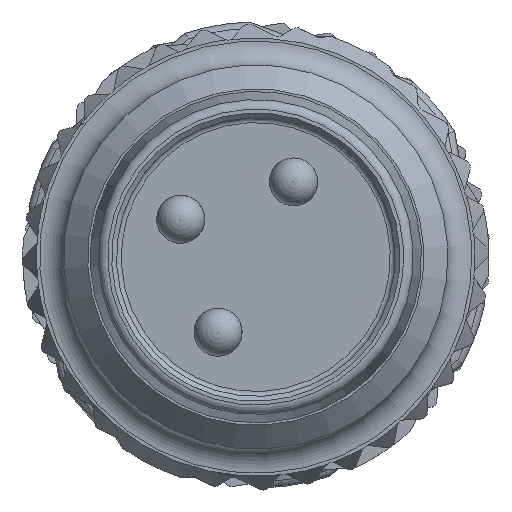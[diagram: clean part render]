
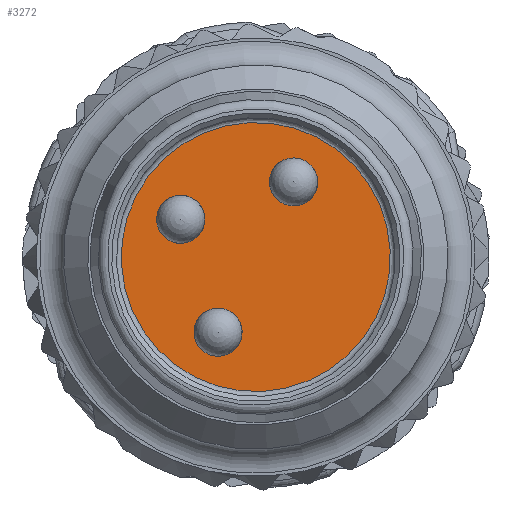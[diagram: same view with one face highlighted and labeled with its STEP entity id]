
A CAD part, left-side view. The second image highlights one B-rep face of the part: STEP entity #3272.
In plain terms, the highlighted planar face has unit normal (-1, 0, 0).
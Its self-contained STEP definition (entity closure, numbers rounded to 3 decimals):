
#266=PLANE('',#12743);
#3272=ADVANCED_FACE('',(#3985,#3986,#3987,#3988),#266,.F.);
#3985=FACE_BOUND('',#4556,.T.);
#3986=FACE_BOUND('',#4557,.T.);
#3987=FACE_BOUND('',#4558,.T.);
#3988=FACE_BOUND('',#4559,.T.);
#4556=EDGE_LOOP('',(#6990));
#4557=EDGE_LOOP('',(#6991));
#4558=EDGE_LOOP('',(#6992));
#4559=EDGE_LOOP('',(#6993));
#6990=ORIENTED_EDGE('',*,*,#10561,.T.);
#6991=ORIENTED_EDGE('',*,*,#10560,.F.);
#6992=ORIENTED_EDGE('',*,*,#10559,.F.);
#6993=ORIENTED_EDGE('',*,*,#10558,.F.);
#9031=VERTEX_POINT('',#20519);
#9032=VERTEX_POINT('',#20523);
#9033=VERTEX_POINT('',#20526);
#9034=VERTEX_POINT('',#20529);
#10558=EDGE_CURVE('',#9031,#9031,#11658,.T.);
#10559=EDGE_CURVE('',#9032,#9032,#11659,.T.);
#10560=EDGE_CURVE('',#9033,#9033,#11660,.T.);
#10561=EDGE_CURVE('',#9034,#9034,#11661,.T.);
#11658=CIRCLE('',#12736,0.5);
#11659=CIRCLE('',#12738,0.5);
#11660=CIRCLE('',#12740,0.5);
#11661=CIRCLE('',#12742,2.8);
#12736=AXIS2_PLACEMENT_3D('',#20520,#15375,#15376);
#12738=AXIS2_PLACEMENT_3D('',#20522,#15379,#15380);
#12740=AXIS2_PLACEMENT_3D('',#20525,#15383,#15384);
#12742=AXIS2_PLACEMENT_3D('',#20528,#15387,#15388);
#12743=AXIS2_PLACEMENT_3D('',#20530,#15389,#15390);
#15375=DIRECTION('',(-1.,0.,0.));
#15376=DIRECTION('',(0.,0.,-1.));
#15379=DIRECTION('',(-1.,0.,0.));
#15380=DIRECTION('',(0.,0.,-1.));
#15383=DIRECTION('',(-1.,0.,0.));
#15384=DIRECTION('',(0.,0.,-1.));
#15387=DIRECTION('',(-1.,0.,0.));
#15388=DIRECTION('',(0.,-0.893,-0.449));
#15389=DIRECTION('',(1.,0.,0.));
#15390=DIRECTION('',(0.,-0.893,-0.449));
#20519=CARTESIAN_POINT('',(-66.45,-0.495,1.097));
#20520=CARTESIAN_POINT('',(-66.45,-0.764,1.519));
#20522=CARTESIAN_POINT('',(-66.45,0.809,-1.608));
#20523=CARTESIAN_POINT('',(-66.45,0.809,-2.108));
#20525=CARTESIAN_POINT('',(-66.45,1.586,0.741));
#20526=CARTESIAN_POINT('',(-66.45,1.586,0.241));
#20528=CARTESIAN_POINT('',(-66.45,0.022,-0.045));
#20529=CARTESIAN_POINT('',(-66.45,-2.479,-1.302));
#20530=CARTESIAN_POINT('',(-66.45,0.022,-0.045));
